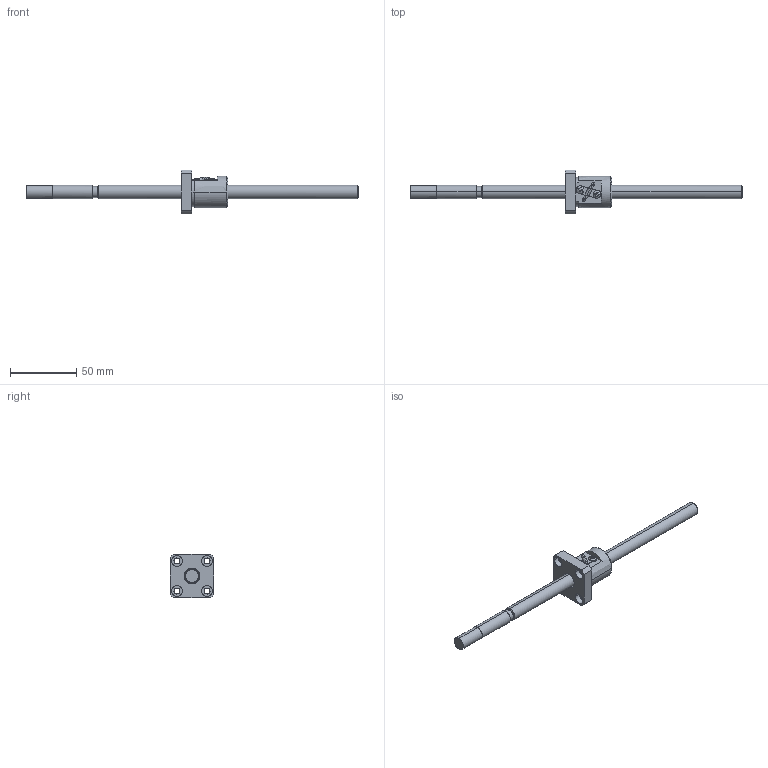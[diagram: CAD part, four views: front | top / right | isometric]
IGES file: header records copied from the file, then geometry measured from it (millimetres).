
Global section: file name: No Iges File Name specified; native system: AutoDesk Inventor R10; preprocessor: AutoDesk Inventor Iges Exporter R10; author: No Author specified; organization: No Organization specified; date: 20101224.135525; units: millimetre
Bounding box: 250 x 33 x 33 mm (x, y, z)
Surface area: 14985.6 mm2 (no closed solid volume)
Topology: 0 solids, 0 shells, 132 faces, 940 edges, 940 vertices
Faces by surface type: bspline 132
